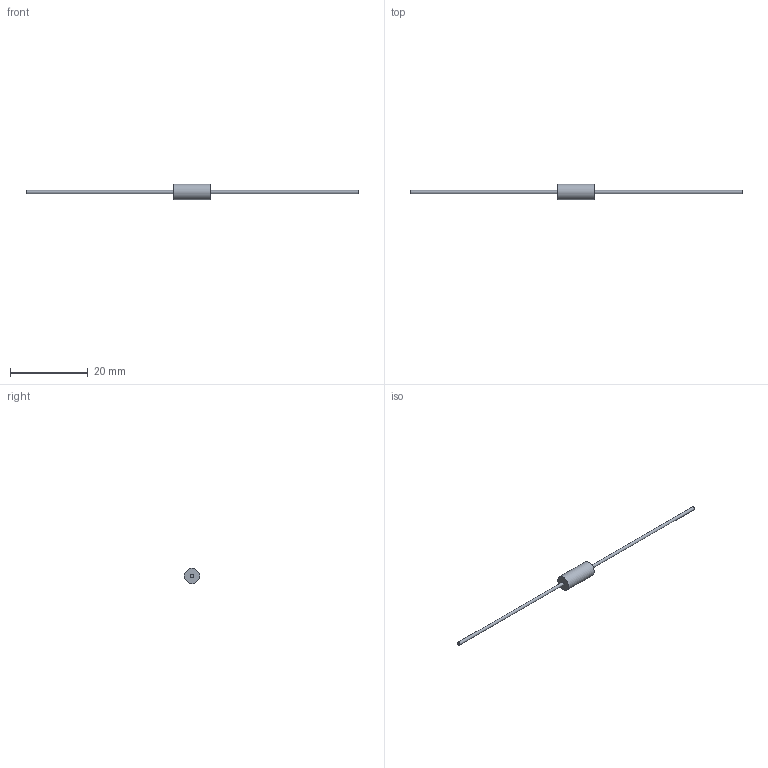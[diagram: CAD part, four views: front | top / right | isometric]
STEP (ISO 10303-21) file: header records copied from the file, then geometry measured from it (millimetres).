
FILE_DESCRIPTION(/* description */ (''),/* implementation_level */ '2;1');
FILE_NAME(/* name */ 'C:\Users\mulla\Documents\SEI Models\Inventor Files\WW_MWW_NWW_WWS\3D\WW2_WWS3_NWW2_NWWS3_stp.stp',/* time_stamp */ '2019-07-10T21:32:25-04:00',/* author */ ('mulla'),/* organization */ (''),/* preprocessor_version */ 'ST-DEVELOPER v16.1',/* originating_system */ 'Autodesk Inventor 2016',/* authorisation */ '');
FILE_SCHEMA (('AUTOMOTIVE_DESIGN { 1 0 10303 214 3 1 1 }'));
Length unit declared in the file: millimetre
Products named in the file (1): WW2_WWS3_NWW2_NWWS3
Bounding box: 85.6 x 3.96 x 3.96 mm (x, y, z)
Volume: 155 mm3; surface area: 337.5 mm2
Topology: 3 solids, 3 shells, 9 faces, 9 edges, 6 vertices
Faces by surface type: plane 6, cylinder 3
Full cylindrical faces by diameter (mm): 0.81 x2, 3.96 x1
Entity records: 199 total; most frequent: DIRECTION 32, CARTESIAN_POINT 22, AXIS2_PLACEMENT_3D 16, EDGE_LOOP 12, ORIENTED_EDGE 12, STYLED_ITEM 12, FACE_OUTER_BOUND 9, ADVANCED_FACE 9
